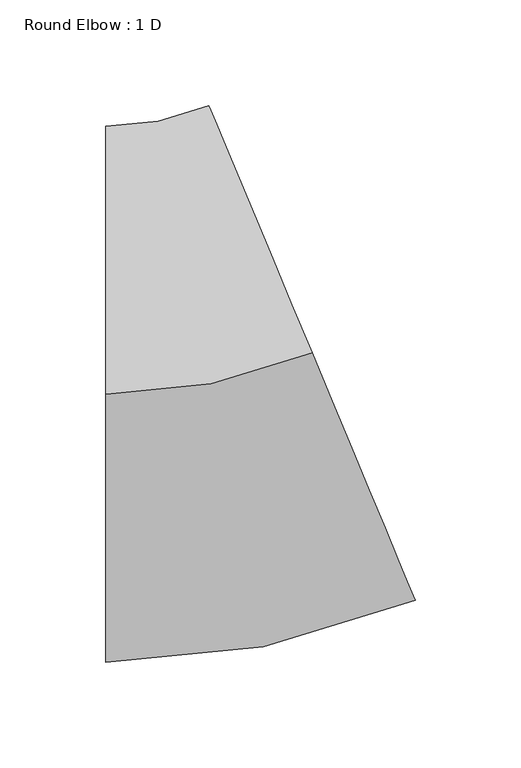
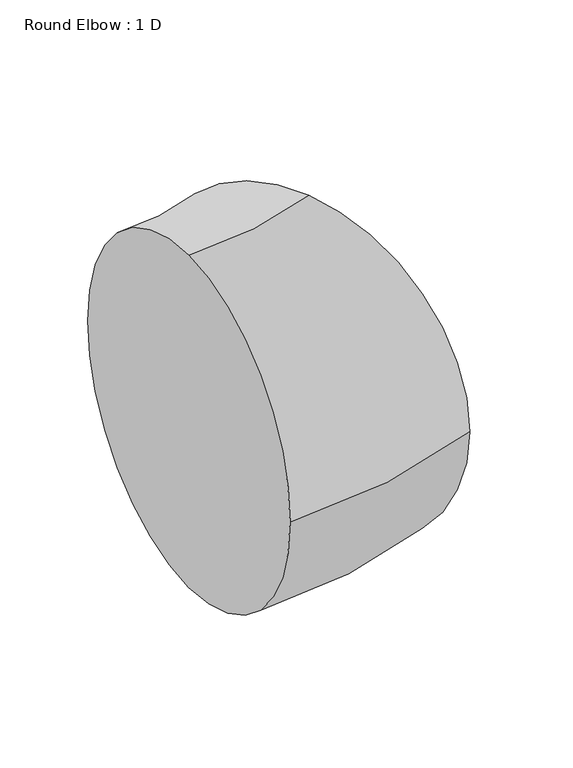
"""IFC4 building model written with IfcOpenShell, lengths in millimetres: duct fitting geometry, Round Elbow : 1 D."""

from ifc_helpers import new_model, si_unit, point, frame, origin, place, context, project, spatial, circle_curve, ellipse_curve, trimmed, source, transform, mapped, element, save
from ifc_brep_helpers import plane_surface, revolved_surface, advanced_brep


def round_elbow_1_d_5b88d7e2(model_context):
    return source(origin(), model_context, "Body", "AdvancedBrep", [
        advanced_brep(
        [(-50.8706219, 0.0, 127.0), (-50.8706219, 127.0, 0.0), (-50.8706219, 0.0, -127.0), (-50.8706219, -127.0, 0.0), (46.9470295, 19.5907274, 127.0), (95.8558552, -97.6139089, 0.0), (46.9470295, 19.5907274, -127.0), (-1.9617962, 136.7953637, 0.0)],
        [
            (0, 1, circle_curve(frame((-50.8706219, 0.0, 0.0), z_axis=(-1.0, 0.0, 0.0), x_axis=(0.0, 1.0, 0.0)), 127.0)),
            (1, 2, circle_curve(frame((-50.8706219, 0.0, 0.0), z_axis=(-1.0, 0.0, 0.0), x_axis=(0.0, 1.0, 0.0)), 127.0)),
            (2, 3, circle_curve(frame((-50.8706219, 0.0, 0.0), z_axis=(-1.0, 0.0, 0.0), x_axis=(0.0, 1.0, 0.0)), 127.0)),
            (3, 0, circle_curve(frame((-50.8706219, 0.0, 0.0), z_axis=(-1.0, 0.0, 0.0), x_axis=(0.0, 1.0, 0.0)), 127.0)),
            (4, 5, circle_curve(frame((46.9470295, 19.5907274, 0.0), z_axis=(0.9228711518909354, 0.3851088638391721, 0.0), x_axis=(-0.3851088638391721, 0.9228711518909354, 0.0)), 127.0)),
            (5, 6, circle_curve(frame((46.9470295, 19.5907274, 0.0), z_axis=(0.9228711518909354, 0.3851088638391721, 0.0), x_axis=(-0.3851088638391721, 0.9228711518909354, 0.0)), 127.0)),
            (6, 7, circle_curve(frame((46.9470295, 19.5907274, 0.0), z_axis=(0.9228711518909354, 0.3851088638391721, 0.0), x_axis=(-0.3851088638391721, 0.9228711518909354, 0.0)), 127.0)),
            (7, 4, circle_curve(frame((46.9470295, 19.5907274, 0.0), z_axis=(0.9228711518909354, 0.3851088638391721, 0.0), x_axis=(-0.3851088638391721, 0.9228711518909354, 0.0)), 127.0)),
            (7, 1, circle_curve(frame((-50.8706219, 254.0, 0.0), z_axis=(0.0, 0.0, -1.0), x_axis=(0.0, -1.0, 0.0)), 127.0)),
            (0, 4, circle_curve(frame((-50.8706219, 254.0, 127.0), z_axis=(0.0, 0.0, 1.0), x_axis=(0.0, -1.0, 0.0)), 254.0)),
            (6, 2, circle_curve(frame((-50.8706219, 254.0, -127.0), z_axis=(0.0, 0.0, -1.0), x_axis=(0.0, -1.0, 0.0)), 254.0)),
            (5, 3, circle_curve(frame((-50.8706219, 254.0, 0.0), z_axis=(0.0, 0.0, -1.0), x_axis=(0.0, -1.0, 0.0)), 381.0)),
        ],
        [
            plane_surface(frame((-50.8706219, 0.0, 0.0), z_axis=(-1.0, 0.0, 0.0), x_axis=(0.0, 0.0, 1.0))),
            plane_surface(frame((46.9470295, 19.5907274, 0.0), z_axis=(0.9228711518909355, 0.38510886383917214, 0.0), x_axis=(0.0, 0.0, 1.0))),
            revolved_surface(trimmed(ellipse_curve(frame((-50.8706219, 0.0, 0.0), z_axis=(-1.0, 0.0, 0.0), x_axis=(0.0, 1.0, 0.0)), 127.0, 127.0), [point((-50.8706219, 0.0, 127.0))], [point((-50.8706219, 127.0, 0.0))], True, "CARTESIAN"), (-50.8706219, 254.0, 0.0), (0.0, 0.0, 1.0)),
            revolved_surface(trimmed(ellipse_curve(frame((-50.8706219, 0.0, 0.0), z_axis=(-1.0, 0.0, 0.0), x_axis=(0.0, 1.0, 0.0)), 127.0, 127.0), [point((-50.8706219, 127.0, 0.0))], [point((-50.8706219, 0.0, -127.0))], True, "CARTESIAN"), (-50.8706219, 254.0, 0.0), (0.0, 0.0, 1.0)),
            revolved_surface(trimmed(ellipse_curve(frame((-50.8706219, 0.0, 0.0), z_axis=(-1.0, 0.0, 0.0), x_axis=(0.0, 1.0, 0.0)), 127.0, 127.0), [point((-50.8706219, 0.0, -127.0))], [point((-50.8706219, -127.0, 0.0))], True, "CARTESIAN"), (-50.8706219, 254.0, 0.0), (0.0, 0.0, 1.0)),
            revolved_surface(trimmed(ellipse_curve(frame((-50.8706219, 0.0, 0.0), z_axis=(-1.0, 0.0, 0.0), x_axis=(0.0, 1.0, 0.0)), 127.0, 127.0), [point((-50.8706219, -127.0, 0.0))], [point((-50.8706219, 0.0, 127.0))], True, "CARTESIAN"), (-50.8706219, 254.0, 0.0), (0.0, 0.0, 1.0)),
        ],
        [
            (0, [[1, 2, 3, 4]]),
            (1, [[5, 6, 7, 8]]),
            (2, [[9, -1, 10, -8]]),
            (3, [[11, -2, -9, -7]]),
            (4, [[12, -3, -11, -6]]),
            (5, [[-10, -4, -12, -5]]),
        ],
    ),
    ])


if __name__ == "__main__":
    model = new_model("IFC4")
    model_context = context("Model", 3, world=origin())
    ifc_project = project(units=[si_unit("LENGTHUNIT", "METRE", prefix="MILLI")], contexts=[model_context])
    site = spatial("IfcSite", under=ifc_project)
    building = spatial("IfcBuilding", under=site)
    placement = place(None, origin())
    round_elbow_1_d_shape = round_elbow_1_d_5b88d7e2(model_context)
    element("IfcDuctFitting", 1, ObjectType="Round Elbow : 1 D", at=placement, inside=building, context=model_context, shape_type="MappedRepresentation", body=[
        mapped(round_elbow_1_d_shape, transform((0.0, 0.0, 0.0), x_axis=(1.0, 0.0, 0.0), y_axis=(0.0, 1.0, 0.0), z_axis=(0.0, 0.0, 1.0))),
    ])
    save(model, "model.ifc")
